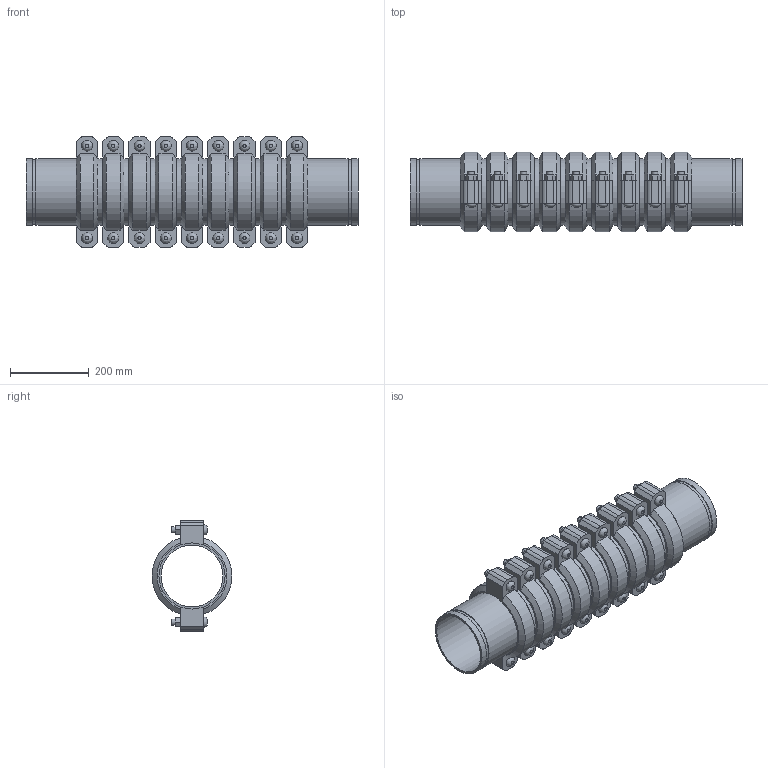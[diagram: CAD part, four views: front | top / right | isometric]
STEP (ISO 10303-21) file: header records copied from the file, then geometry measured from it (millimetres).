
FILE_DESCRIPTION(/* description */ ('VIC SS EXPANSION JOINT 9 COUPLINGS EXPANDED STYLE 155P (OGS) (POTABLE WATER) ','CAx-IF Rec.Pracs.---Representation and Presentation of Product Manufacturing Information (PMI)---4.0---2014-10-13'),/* implementation_level */ '2;1');
FILE_NAME(/* name */ 'C:\Users\kkamble\AppData\Roaming\Autodesk\ApplicationPlugins\Victaulic.Temp\A474\Victaulic_SS_Expansion Joint_Expanded_9 Couplings_Style 155P (OGS)-Potable Water_9 Coup_Expd_6 (150).stp',/* time_stamp */ '2021-07-16T16:58:01+05:00',/* author */ ('kkamble'),/* organization */ ('Victaulic'),/* preprocessor_version */ 'ST-DEVELOPER v17.2',/* originating_system */ 'Autodesk Inventor 2019',/* authorisation */ '');
FILE_SCHEMA (('AP242_MANAGED_MODEL_BASED_3D_ENGINEERING_MIM_LF { 1 0 10303 442 1 1 4 }'));
Length unit declared in the file: inch
Products named in the file (4): 155P-06.0; Nipple-06.0; Nipple-06.0_1; 075-06.0
Assembly tree (19 placements, depth 2):
  155P-06.0
    Nipple-06.0  x2
    Nipple-06.0_1  x8
    075-06.0  x9
Bounding box: 844.8 x 202.46 x 281.18 mm (x, y, z)
Volume: 8898428.4 mm3; surface area: 1951405.7 mm2
Topology: 19 solids, 37 shells, 633 faces, 1497 edges, 1050 vertices
Faces by surface type: plane 384, cylinder 195, cone 36, bspline 18
Full cylindrical faces by diameter (mm): 15.875 x36, 17.424 x18, 157.15 x10, 161.925 x9, 163.957 x20, 168.275 x48
Entity records: 2856 total; most frequent: CARTESIAN_POINT 503, DIRECTION 481, ORIENTED_EDGE 386, AXIS2_PLACEMENT_3D 194, EDGE_CURVE 193, VERTEX_POINT 138, EDGE_LOOP 107, LINE 93
